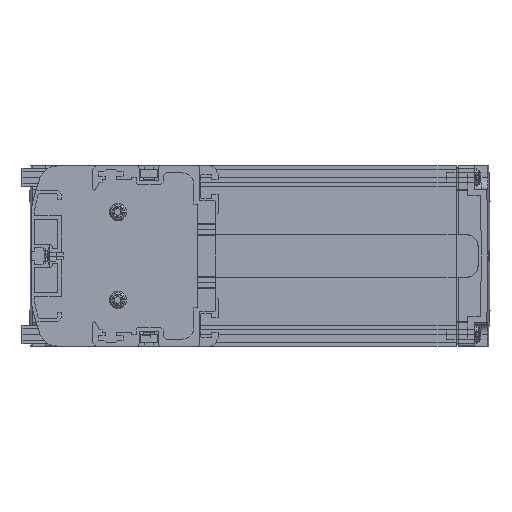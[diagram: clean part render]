
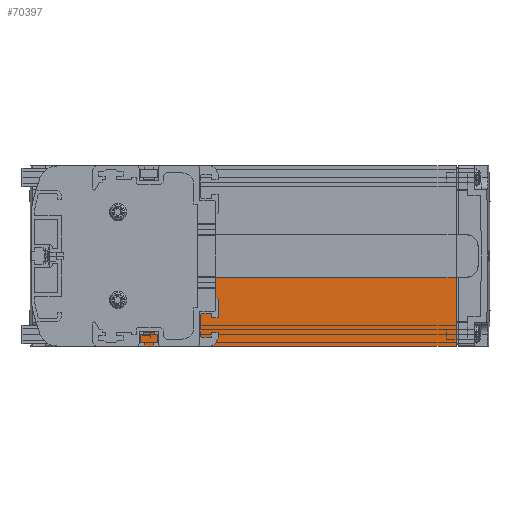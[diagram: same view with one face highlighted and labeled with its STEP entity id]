
A CAD part, left-side view. The second image highlights one B-rep face of the part: STEP entity #70397.
In plain terms, the highlighted planar face has unit normal (-1, 0, 0).
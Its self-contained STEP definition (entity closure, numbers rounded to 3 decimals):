
#68338=DIRECTION('',(0.,1.,0.));
#68339=VECTOR('',#68338,51.);
#68340=CARTESIAN_POINT('',(3.,16.,-27.));
#68341=LINE('',#68340,#68339);
#68987=DIRECTION('',(0.,1.,0.));
#68988=VECTOR('',#68987,170.);
#68989=CARTESIAN_POINT('',(3.,-103.,-39.));
#68990=LINE('',#68989,#68988);
#69005=DIRECTION('',(0.,0.,1.));
#69006=VECTOR('',#69005,29.9);
#69007=CARTESIAN_POINT('',(3.,-103.,-39.));
#69008=LINE('',#69007,#69006);
#69009=DIRECTION('',(0.,0.,-1.));
#69010=VECTOR('',#69009,12.);
#69011=CARTESIAN_POINT('',(3.,67.,-27.));
#69012=LINE('',#69011,#69010);
#69013=DIRECTION('',(0.,0.,-1.));
#69014=VECTOR('',#69013,17.9);
#69015=CARTESIAN_POINT('',(3.,16.,-9.1));
#69016=LINE('',#69015,#69014);
#69123=DIRECTION('',(0.,1.,0.));
#69124=VECTOR('',#69123,119.);
#69125=CARTESIAN_POINT('',(3.,-103.,-9.1));
#69126=LINE('',#69125,#69124);
#69210=CARTESIAN_POINT('',(3.,67.,-27.));
#69212=VERTEX_POINT('',#69210);
#69304=CARTESIAN_POINT('',(3.,67.,-39.));
#69305=VERTEX_POINT('',#69304);
#69378=CARTESIAN_POINT('',(3.,-103.,-39.));
#69379=VERTEX_POINT('',#69378);
#69380=CARTESIAN_POINT('',(3.,-103.,-9.1));
#69381=VERTEX_POINT('',#69380);
#69442=CARTESIAN_POINT('',(3.,16.,-27.));
#69443=VERTEX_POINT('',#69442);
#69444=CARTESIAN_POINT('',(3.,16.,-9.1));
#69445=VERTEX_POINT('',#69444);
#70382=CARTESIAN_POINT('',(3.,-18.,-24.05));
#70383=DIRECTION('',(1.,0.,0.));
#70384=DIRECTION('',(0.,0.,-1.));
#70385=AXIS2_PLACEMENT_3D('',#70382,#70383,#70384);
#70386=PLANE('',#70385);
#70387=ORIENTED_EDGE('',*,*,#69628,.F.);
#70389=ORIENTED_EDGE('',*,*,#70388,.F.);
#70391=ORIENTED_EDGE('',*,*,#70390,.F.);
#70392=ORIENTED_EDGE('',*,*,#69956,.F.);
#70393=ORIENTED_EDGE('',*,*,#70370,.T.);
#70394=ORIENTED_EDGE('',*,*,#69497,.F.);
#70395=EDGE_LOOP('',(#70387,#70389,#70391,#70392,#70393,#70394));
#70396=FACE_OUTER_BOUND('',#70395,.F.);
#70397=ADVANCED_FACE('',(#70396),#70386,.F.);
#69497=EDGE_CURVE('',#69212,#69305,#69012,.T.);
#69628=EDGE_CURVE('',#69443,#69212,#68341,.T.);
#69956=EDGE_CURVE('',#69379,#69381,#69008,.T.);
#70370=EDGE_CURVE('',#69379,#69305,#68990,.T.);
#70388=EDGE_CURVE('',#69445,#69443,#69016,.T.);
#70390=EDGE_CURVE('',#69381,#69445,#69126,.T.);
